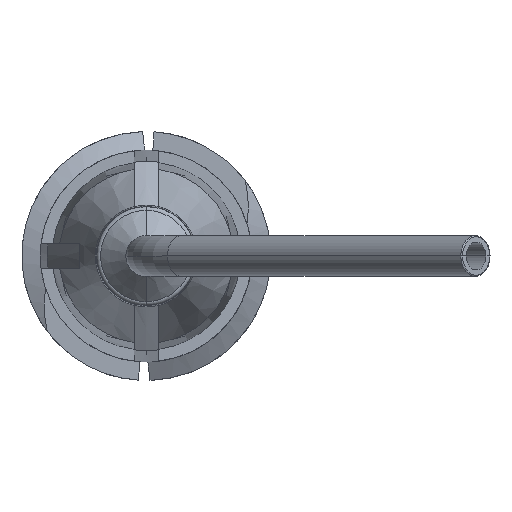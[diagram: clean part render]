
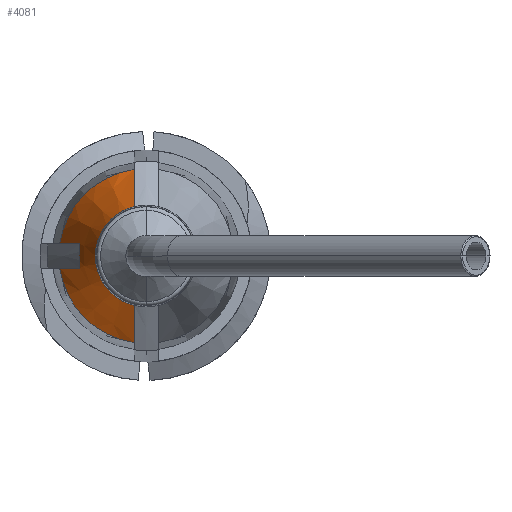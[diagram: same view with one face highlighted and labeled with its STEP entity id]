
A CAD part, front view. The second image highlights one B-rep face of the part: STEP entity #4081.
In plain terms, the highlighted conical face has half-angle 20 degrees and reference radius 2.745 mm.
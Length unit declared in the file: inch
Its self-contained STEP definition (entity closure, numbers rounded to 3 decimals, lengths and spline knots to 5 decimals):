
#11 = CIRCLE ( 'NONE', #4556, 0.10808 ) ;
#47 = CARTESIAN_POINT ( 'NONE',  ( -0.015, -0.52985, -0.06119 ) ) ;
#151 = DIRECTION ( 'NONE',  ( 0., 1., 0. ) ) ;
#420 = VERTEX_POINT ( 'NONE', #2092 ) ;
#428 = CARTESIAN_POINT ( 'NONE',  ( 0., -0.47395, 0. ) ) ;
#466 = VERTEX_POINT ( 'NONE', #748 ) ;
#517 = AXIS2_PLACEMENT_3D ( 'NONE', #2638, #768, #1145 ) ;
#527 = CARTESIAN_POINT ( 'NONE',  ( -0.08198, -0.47395, 0.015 ) ) ;
#669 = DIRECTION ( 'NONE',  ( 0., 0., -1. ) ) ;
#676 = CIRCLE ( 'NONE', #517, 0.063 ) ;
#710 = FACE_OUTER_BOUND ( 'NONE', #2315, .T. ) ;
#748 = CARTESIAN_POINT ( 'NONE',  ( -0.015, -0.52985, 0.06119 ) ) ;
#768 = DIRECTION ( 'NONE',  ( 0., 1., 0. ) ) ;
#779 = VERTEX_POINT ( 'NONE', #4404 ) ;
#877 = EDGE_CURVE ( 'NONE', #420, #466, #676, .T. ) ;
#893 = ORIENTED_EDGE ( 'NONE', *, *, #2363, .F. ) ;
#902 = EDGE_CURVE ( 'NONE', #420, #2465, #3394, .T. ) ;
#930 = CARTESIAN_POINT ( 'NONE',  ( -0.015, -0.406, 0.10703 ) ) ;
#1016 = CARTESIAN_POINT ( 'NONE',  ( -0.0987, -0.42866, -0.015 ) ) ;
#1043 = CARTESIAN_POINT ( 'NONE',  ( -0.10703, -0.406, -0.015 ) ) ;
#1129 = B_SPLINE_CURVE_WITH_KNOTS ( 'NONE', 3,
 ( #1456, #3884, #2067, #2866 ),
 .UNSPECIFIED., .F., .F.,
 ( 4, 4 ),
 ( 0.00247, 0.00431 ),
 .UNSPECIFIED. ) ;
#1145 = DIRECTION ( 'NONE',  ( 0., 0., -1. ) ) ;
#1293 = VERTEX_POINT ( 'NONE', #2335 ) ;
#1332 = ORIENTED_EDGE ( 'NONE', *, *, #4397, .F. ) ;
#1438 = CARTESIAN_POINT ( 'NONE',  ( -0.09036, -0.45131, -0.015 ) ) ;
#1456 = CARTESIAN_POINT ( 'NONE',  ( -0.08198, -0.47395, 0.015 ) ) ;
#1458 = CARTESIAN_POINT ( 'NONE',  ( -0.08198, -0.47395, -0.015 ) ) ;
#1500 = CARTESIAN_POINT ( 'NONE',  ( -0.015, -0.48863, -0.07664 ) ) ;
#1562 = EDGE_CURVE ( 'NONE', #3440, #1819, #1129, .T. ) ;
#1574 = B_SPLINE_CURVE_WITH_KNOTS ( 'NONE', 3,
 ( #2615, #4058, #2807, #930 ),
 .UNSPECIFIED., .F., .F.,
 ( 4, 4 ),
 ( 0.00282, 0.00617 ),
 .UNSPECIFIED. ) ;
#1757 = DIRECTION ( 'NONE',  ( 0., 0., -1. ) ) ;
#1819 = VERTEX_POINT ( 'NONE', #3787 ) ;
#2023 = CARTESIAN_POINT ( 'NONE',  ( 0., -0.406, 0. ) ) ;
#2067 = CARTESIAN_POINT ( 'NONE',  ( -0.0987, -0.42866, 0.015 ) ) ;
#2092 = CARTESIAN_POINT ( 'NONE',  ( -0.015, -0.52985, -0.06119 ) ) ;
#2094 = DIRECTION ( 'NONE',  ( 0., 1., 0. ) ) ;
#2315 = EDGE_LOOP ( 'NONE', ( #2994, #2980, #2506, #3008, #3804, #1332, #893, #3659 ) ) ;
#2335 = CARTESIAN_POINT ( 'NONE',  ( -0.015, -0.406, 0.10703 ) ) ;
#2363 = EDGE_CURVE ( 'NONE', #3596, #779, #4239, .T. ) ;
#2397 = CARTESIAN_POINT ( 'NONE',  ( -0.10703, -0.406, -0.015 ) ) ;
#2465 = VERTEX_POINT ( 'NONE', #3995 ) ;
#2506 = ORIENTED_EDGE ( 'NONE', *, *, #3458, .T. ) ;
#2583 = EDGE_CURVE ( 'NONE', #2465, #3596, #4560, .T. ) ;
#2590 = CARTESIAN_POINT ( 'NONE',  ( -0.015, -0.406, -0.10703 ) ) ;
#2615 = CARTESIAN_POINT ( 'NONE',  ( -0.015, -0.52985, 0.06119 ) ) ;
#2638 = CARTESIAN_POINT ( 'NONE',  ( 0., -0.52985, 0. ) ) ;
#2807 = CARTESIAN_POINT ( 'NONE',  ( -0.015, -0.44732, 0.09185 ) ) ;
#2866 = CARTESIAN_POINT ( 'NONE',  ( -0.10703, -0.406, 0.015 ) ) ;
#2948 = CARTESIAN_POINT ( 'NONE',  ( -0.015, -0.44732, -0.09185 ) ) ;
#2980 = ORIENTED_EDGE ( 'NONE', *, *, #877, .T. ) ;
#2994 = ORIENTED_EDGE ( 'NONE', *, *, #902, .F. ) ;
#3008 = ORIENTED_EDGE ( 'NONE', *, *, #4373, .F. ) ;
#3183 = DIRECTION ( 'NONE',  ( 0., 1., 0. ) ) ;
#3394 = B_SPLINE_CURVE_WITH_KNOTS ( 'NONE', 3,
 ( #47, #1500, #2948, #2590 ),
 .UNSPECIFIED., .F., .F.,
 ( 4, 4 ),
 ( 0.00282, 0.00617 ),
 .UNSPECIFIED. ) ;
#3424 = CARTESIAN_POINT ( 'NONE',  ( 0., -0.406, 0. ) ) ;
#3440 = VERTEX_POINT ( 'NONE', #527 ) ;
#3458 = EDGE_CURVE ( 'NONE', #466, #1293, #1574, .T. ) ;
#3509 = CIRCLE ( 'NONE', #3586, 0.08335 ) ;
#3586 = AXIS2_PLACEMENT_3D ( 'NONE', #428, #3183, #4610 ) ;
#3596 = VERTEX_POINT ( 'NONE', #2397 ) ;
#3659 = ORIENTED_EDGE ( 'NONE', *, *, #2583, .F. ) ;
#3731 = CONICAL_SURFACE ( 'NONE', #4326, 0.10808, 0.349 ) ;
#3738 = AXIS2_PLACEMENT_3D ( 'NONE', #3424, #151, #4507 ) ;
#3787 = CARTESIAN_POINT ( 'NONE',  ( -0.10703, -0.406, 0.015 ) ) ;
#3804 = ORIENTED_EDGE ( 'NONE', *, *, #1562, .F. ) ;
#3884 = CARTESIAN_POINT ( 'NONE',  ( -0.09036, -0.45131, 0.015 ) ) ;
#3916 = CARTESIAN_POINT ( 'NONE',  ( 0., -0.406, 0. ) ) ;
#3995 = CARTESIAN_POINT ( 'NONE',  ( -0.015, -0.406, -0.10703 ) ) ;
#4058 = CARTESIAN_POINT ( 'NONE',  ( -0.015, -0.48863, 0.07664 ) ) ;
#4081 = ADVANCED_FACE ( 'NONE', ( #710 ), #3731, .T. ) ;
#4239 = B_SPLINE_CURVE_WITH_KNOTS ( 'NONE', 3,
 ( #1043, #1016, #1438, #1458 ),
 .UNSPECIFIED., .F., .F.,
 ( 4, 4 ),
 ( 0.00343, 0.00527 ),
 .UNSPECIFIED. ) ;
#4326 = AXIS2_PLACEMENT_3D ( 'NONE', #3916, #4686, #669 ) ;
#4373 = EDGE_CURVE ( 'NONE', #1819, #1293, #11, .T. ) ;
#4397 = EDGE_CURVE ( 'NONE', #779, #3440, #3509, .T. ) ;
#4404 = CARTESIAN_POINT ( 'NONE',  ( -0.08198, -0.47395, -0.015 ) ) ;
#4507 = DIRECTION ( 'NONE',  ( 0., 0., -1. ) ) ;
#4556 = AXIS2_PLACEMENT_3D ( 'NONE', #2023, #2094, #1757 ) ;
#4560 = CIRCLE ( 'NONE', #3738, 0.10808 ) ;
#4610 = DIRECTION ( 'NONE',  ( 0., 0., 1. ) ) ;
#4686 = DIRECTION ( 'NONE',  ( 0., 1., 0. ) ) ;
